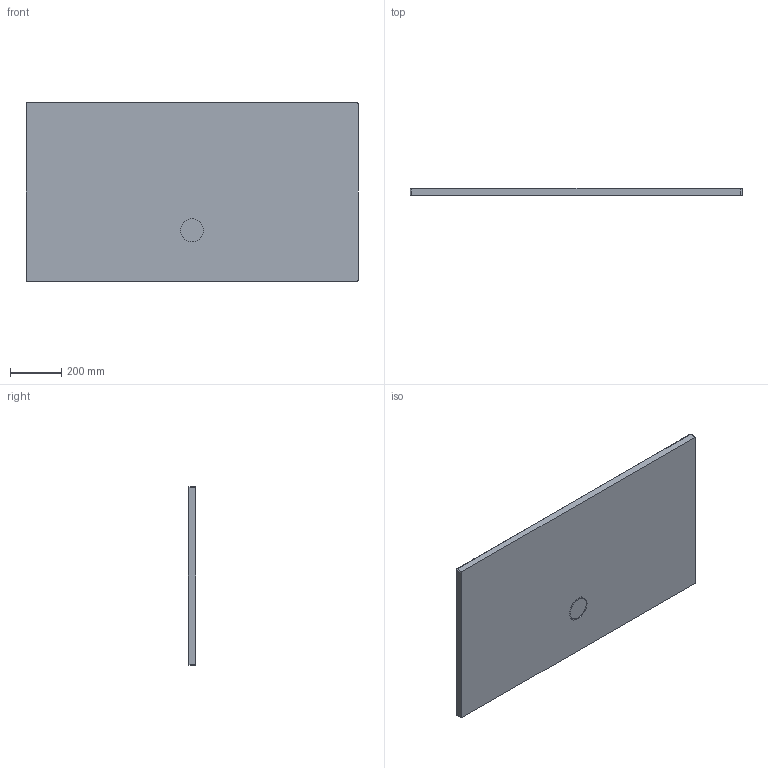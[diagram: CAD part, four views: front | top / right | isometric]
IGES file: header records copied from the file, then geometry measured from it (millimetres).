
Start section: SolidWorks IGES file using analytic representation for surfaces
Global section: file name: Y:\TKT\_PLIKI DLA ARCHITEKTÓW\02_AKRYL\BRODZIKI\seria SPACE MINERAL\IGS\B_M_70x130x1,5.IGS; native system: SolidWorks 2011; preprocessor: SolidWorks 2011; author: w.chabowski; date: 180215.103943; units: millimetre
Bounding box: 1300 x 30 x 700 mm (x, y, z)
Volume: 19101510.9 mm3; surface area: 1952462.3 mm2
Topology: 2 solids, 2 shells, 61 faces, 141 edges, 77 vertices
Faces by surface type: revolution 32, bspline 19, plane 10
